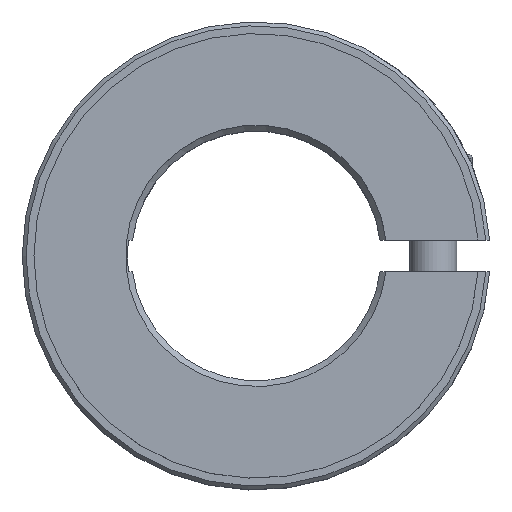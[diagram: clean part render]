
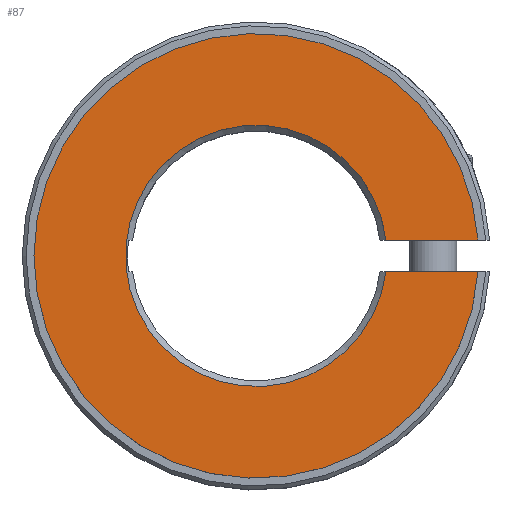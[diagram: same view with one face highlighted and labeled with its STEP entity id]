
A CAD part, top view. The second image highlights one B-rep face of the part: STEP entity #87.
In plain terms, the highlighted planar face has unit normal (0, 0, 1).
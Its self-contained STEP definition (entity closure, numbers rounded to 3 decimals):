
#87 = ADVANCED_FACE( '', ( #138 ), #139, .T. );
#138 = FACE_OUTER_BOUND( '', #221, .T. );
#139 = PLANE( '', #222 );
#221 = EDGE_LOOP( '', ( #379, #380, #381, #382 ) );
#222 = AXIS2_PLACEMENT_3D( '', #383, #384, #385 );
#379 = ORIENTED_EDGE( '', *, *, #599, .F. );
#380 = ORIENTED_EDGE( '', *, *, #587, .T. );
#381 = ORIENTED_EDGE( '', *, *, #600, .T. );
#382 = ORIENTED_EDGE( '', *, *, #592, .T. );
#383 = CARTESIAN_POINT( '', ( 0., 28.5, 10.5 ) );
#384 = DIRECTION( '', ( 0., 0., 1. ) );
#385 = DIRECTION( '', ( 1., 0., 0. ) );
#587 = EDGE_CURVE( '', #701, #699, #702, .T. );
#592 = EDGE_CURVE( '', #710, #708, #711, .T. );
#599 = EDGE_CURVE( '', #701, #708, #720, .T. );
#600 = EDGE_CURVE( '', #699, #710, #721, .T. );
#699 = VERTEX_POINT( '', #964 );
#701 = VERTEX_POINT( '', #967 );
#702 = LINE( '', #968, #969 );
#708 = VERTEX_POINT( '', #978 );
#710 = VERTEX_POINT( '', #981 );
#711 = LINE( '', #982, #983 );
#720 = CIRCLE( '', #997, 28.5 );
#721 = CIRCLE( '', #998, 16.75 );
#964 = CARTESIAN_POINT( '', ( 16.627, -2.03, 10.5 ) );
#967 = CARTESIAN_POINT( '', ( 28.428, -2.03, 10.5 ) );
#968 = CARTESIAN_POINT( '', ( 0., -2.03, 10.5 ) );
#969 = VECTOR( '', #1134, 1000. );
#978 = CARTESIAN_POINT( '', ( 28.428, 2.03, 10.5 ) );
#981 = CARTESIAN_POINT( '', ( 16.627, 2.03, 10.5 ) );
#982 = CARTESIAN_POINT( '', ( 0., 2.03, 10.5 ) );
#983 = VECTOR( '', #1139, 1000. );
#997 = AXIS2_PLACEMENT_3D( '', #1151, #1152, #1153 );
#998 = AXIS2_PLACEMENT_3D( '', #1154, #1155, #1156 );
#1134 = DIRECTION( '', ( -1., 0., 0. ) );
#1139 = DIRECTION( '', ( 1., 0., 0. ) );
#1151 = CARTESIAN_POINT( '', ( 0., 0., 10.5 ) );
#1152 = DIRECTION( '', ( 0., 0., -1. ) );
#1153 = DIRECTION( '', ( -1., 0., 0. ) );
#1154 = CARTESIAN_POINT( '', ( 0., 0., 10.5 ) );
#1155 = DIRECTION( '', ( 0., 0., -1. ) );
#1156 = DIRECTION( '', ( -1., 0., 0. ) );
